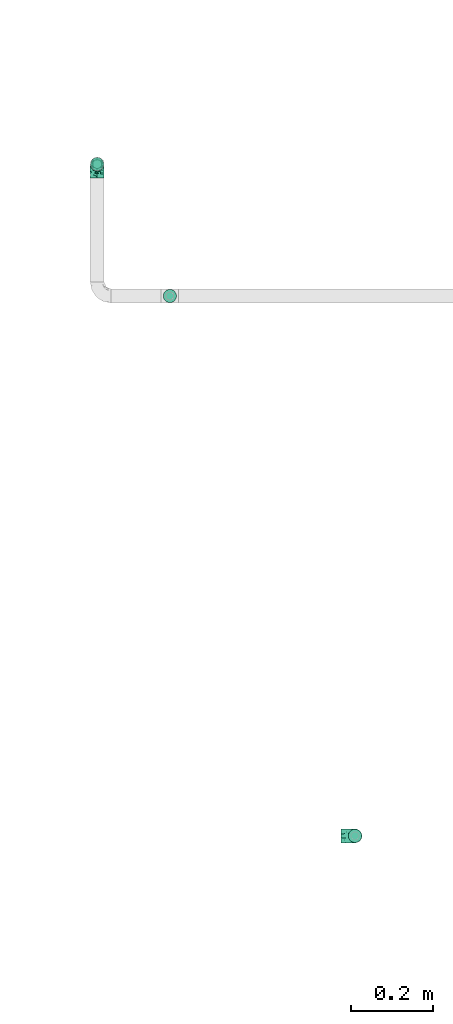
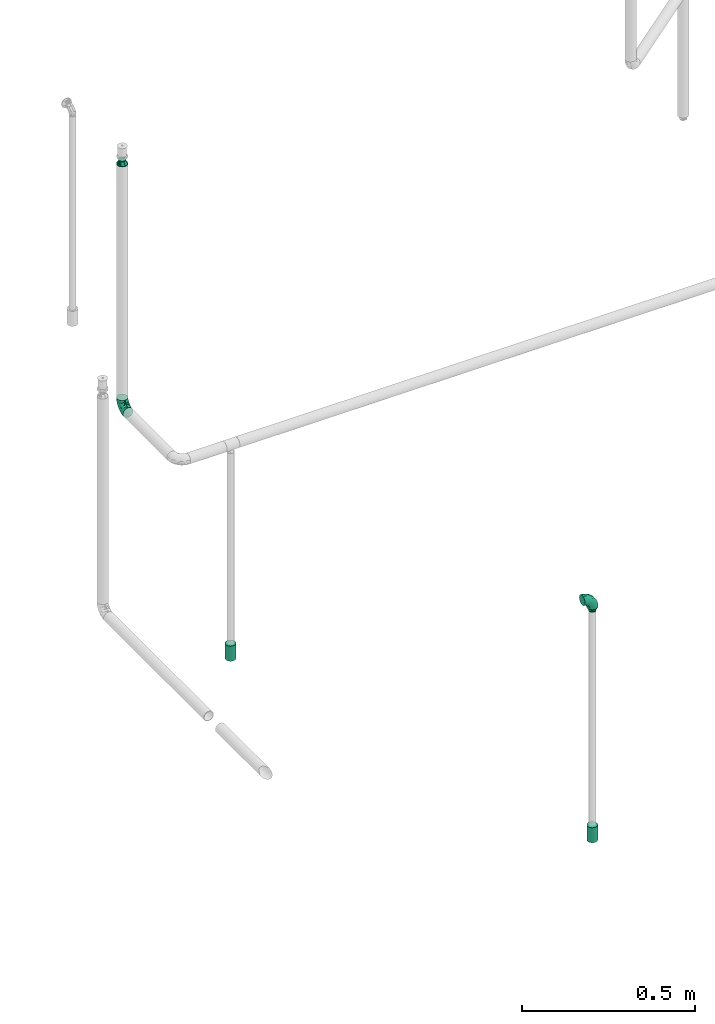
# One storey, part 63 of 94: 4 flow fittings, 2 flow terminals.
"""IFC2X3 building model written with IfcOpenShell, lengths in millimetres."""

import ifcopenshell
import ifcopenshell.guid

model = None  # the IFC model being written
_history = None  # IfcOwnerHistory: only IFC2X3 demands one
_inside = {}  # id of a spatial element -> (the spatial element, [elements in it])
_under = {}  # id of a project, library or spatial element -> (it, [spatial elements below it])
_declared = {}  # id of a project -> (the project, [libraries it declares])
_typed = {}  # id of a type object -> (the type object, [elements of that type])
_made_of = {}  # id of a material, layer set ... -> (it, [elements and type objects made of it])


def new_model(schema):
    """Start an empty IFC model of exactly this schema.

    Asked for "IFC4X3", IfcOpenShell would pick the latest addendum, in which some entities
    have other attributes; the version numbers below select the first issue.
    IFC2X3 requires an IfcOwnerHistory on every rooted entity: one is made here for all.
    """
    global model, _history
    if schema == "IFC4X3":
        model = ifcopenshell.file(schema_version=(4, 3, 0, 0))
    else:
        model = ifcopenshell.file(schema=schema)
    _inside.clear()
    _under.clear()
    _declared.clear()
    _typed.clear()
    _made_of.clear()
    _history = None
    if model.schema == "IFC2X3":
        org = make("IfcOrganization", Name="unknown")
        user = make(
            "IfcPersonAndOrganization",
            ThePerson=make("IfcPerson", FamilyName="unknown"),
            TheOrganization=org,
        )
        app = make(
            "IfcApplication",
            ApplicationDeveloper=org,
            Version="unknown",
            ApplicationFullName="unknown",
            ApplicationIdentifier="unknown",
        )
        _history = make(
            "IfcOwnerHistory",
            OwningUser=user,
            OwningApplication=app,
            ChangeAction="ADDED",
            CreationDate=0,
        )
    return model


def make(cls, **values):
    """One entity of the class cls with the attributes given. An attribute that is None is left unset."""
    return model.create_entity(
        cls, **{name: value for name, value in values.items() if value is not None}
    )


def entity(cls, *values):
    """Any entity or typed value of the class cls, its attributes in the order of the schema. None: left unset."""
    e = model.create_entity(cls)
    for i, value in enumerate(values):
        if value is not None:
            e[i] = value
    return e


def rooted(cls, **values):
    """An entity with a GlobalId (a new one), such as an element, a storey or a relation."""
    return make(cls, GlobalId=ifcopenshell.guid.new(), OwnerHistory=_history, **values)


def si_unit(unit_type, name, prefix=None):
    """IfcSIUnit, for example si_unit("LENGTHUNIT", "METRE", prefix="MILLI")."""
    return make("IfcSIUnit", UnitType=unit_type, Prefix=prefix, Name=name)


def converted_unit(unit_type, name, factor, base, dimensions=None, offset=None):
    """IfcConversionBasedUnit, such as the inch: factor (a typed value) times the base unit."""
    return make(
        "IfcConversionBasedUnit"
        if offset is None
        else "IfcConversionBasedUnitWithOffset",
        ConversionOffset=offset,
        Dimensions=None
        if dimensions is None
        else entity("IfcDimensionalExponents", *dimensions),
        UnitType=unit_type,
        Name=name,
        ConversionFactor=make(
            "IfcMeasureWithUnit", ValueComponent=factor, UnitComponent=base
        ),
    )


def derived_unit(unit_type, elements):
    """IfcDerivedUnit: a product of units, each with its exponent."""
    return make(
        "IfcDerivedUnit",
        Elements=[
            make("IfcDerivedUnitElement", Unit=unit, Exponent=power)
            for unit, power in elements
        ],
        UnitType=unit_type,
    )


def assignment(units):
    """IfcUnitAssignment: the units of a project."""
    return None if units is None else make("IfcUnitAssignment", Units=units)


def point(xyz):
    """IfcCartesianPoint."""
    return None if xyz is None else make("IfcCartesianPoint", Coordinates=xyz)


def direction(xyz):
    """IfcDirection."""
    return None if xyz is None else make("IfcDirection", DirectionRatios=xyz)


def frame(location, z_axis=None, x_axis=None):
    """IfcAxis2Placement3D, a coordinate frame: its origin and axes. An axis left out is left unset."""
    return make(
        "IfcAxis2Placement3D",
        Location=point(location),
        Axis=direction(z_axis),
        RefDirection=direction(x_axis),
    )


def origin_with_axes():
    """The frame at (0, 0, 0) with the z axis (0, 0, 1) and the x axis (1, 0, 0) written out."""
    return frame((0.0, 0.0, 0.0), z_axis=(0.0, 0.0, 1.0), x_axis=(1.0, 0.0, 0.0))


def place(relative_to, where):
    """IfcLocalPlacement: puts the frame where relative to a parent placement (None: the world)."""
    return make(
        "IfcLocalPlacement", PlacementRelTo=relative_to, RelativePlacement=where
    )


def context(
    kind, dimensions, precision=None, world=None, true_north=None, identifier=None
):
    """IfcGeometricRepresentationContext, for example the 3D "Model" context."""
    return make(
        "IfcGeometricRepresentationContext",
        ContextIdentifier=identifier,
        ContextType=kind,
        CoordinateSpaceDimension=dimensions,
        Precision=precision,
        WorldCoordinateSystem=world,
        TrueNorth=true_north,
    )


def subcontext(parent, identifier, kind, view, scale=None):
    """IfcGeometricRepresentationSubContext, for example "Body" below "Model"."""
    return make(
        "IfcGeometricRepresentationSubContext",
        ContextIdentifier=identifier,
        ContextType=kind,
        ParentContext=parent,
        TargetScale=scale,
        TargetView=view,
    )


def project(units=None, contexts=None):
    """IfcProject with its units and contexts."""
    return rooted(
        "IfcProject",
        Name="project",
        RepresentationContexts=contexts,
        UnitsInContext=assignment(units),
    )


def spatial(cls, under=None, at=None, **own):
    """A site, building, storey or space (cls), placed at a placement, below another one or the project."""
    s = rooted(cls, ObjectPlacement=at, **own)
    if under is not None:
        _under.setdefault(under.id(), (under, []))[1].append(s)
    return s


def faces_of(points, faces, orient=None, outer=None):
    """IfcFace entities. A face is a list of loops; a loop is a list of indices into points, from 0.

    orient and outer hold one flag for each loop. By default every Orientation is true, the
    first loop of a face is its IfcFaceOuterBound and the others are IfcFaceBound.
    """
    made = []
    for i, loops in enumerate(faces):
        bounds = []
        for j, loop in enumerate(loops):
            is_outer = j == 0 if outer is None else outer[i][j]
            bounds.append(
                make(
                    "IfcFaceOuterBound" if is_outer else "IfcFaceBound",
                    Bound=make("IfcPolyLoop", Polygon=[points[k] for k in loop]),
                    Orientation=True if orient is None else orient[i][j],
                )
            )
        made.append(make("IfcFace", Bounds=bounds))
    return made


def open_shell(faces, orient=None, outer=None):
    """The faces of one IfcOpenShell. surface_model builds it on its shared points."""
    return ("IfcOpenShell", faces, orient, outer)


def surface_model(cls, points, shells):
    """IfcFaceBasedSurfaceModel or IfcShellBasedSurfaceModel (cls): surfaces that need not close."""
    shared = [point(p) for p in points]
    made = [make(c, CfsFaces=faces_of(shared, fs, o, b)) for c, fs, o, b in shells]
    if cls == "IfcFaceBasedSurfaceModel":
        return make(cls, FbsmFaces=made)
    return make(cls, SbsmBoundary=made)


def shape(context_of_items, identifier, shape_type, items):
    """IfcShapeRepresentation: the items that make up one representation, for example the "Body"."""
    return make(
        "IfcShapeRepresentation",
        ContextOfItems=context_of_items,
        RepresentationIdentifier=identifier,
        RepresentationType=shape_type,
        Items=items,
    )


def source(mapping_origin, context_of_items, identifier, shape_type, items):
    """IfcRepresentationMap: a shape defined once, which mapped items show again and again."""
    return make(
        "IfcRepresentationMap",
        MappingOrigin=mapping_origin,
        MappedRepresentation=shape(context_of_items, identifier, shape_type, items),
    )


def transform(
    local_origin,
    x_axis=None,
    y_axis=None,
    z_axis=None,
    scale=None,
    scale2=None,
    scale3=None,
    uniform=True,
):
    """IfcCartesianTransformationOperator3D, or its non-uniform kind. x_axis, y_axis, z_axis: its Axis1, 2, 3."""
    if uniform:
        return make(
            "IfcCartesianTransformationOperator3D",
            Axis1=direction(x_axis),
            Axis2=direction(y_axis),
            LocalOrigin=point(local_origin),
            Scale=scale,
            Axis3=direction(z_axis),
        )
    return make(
        "IfcCartesianTransformationOperator3DnonUniform",
        Axis1=direction(x_axis),
        Axis2=direction(y_axis),
        LocalOrigin=point(local_origin),
        Scale=scale,
        Axis3=direction(z_axis),
        Scale2=scale2,
        Scale3=scale3,
    )


def mapped(mapping_source, mapping_target):
    """IfcMappedItem: shows the shape of a source again, moved by a transform."""
    return make(
        "IfcMappedItem", MappingSource=mapping_source, MappingTarget=mapping_target
    )


def made_of(thing, what):
    """Note that an element or type object is made of a material, layer set ...; save() writes the relation."""
    if what is not None:
        _made_of.setdefault(what.id(), (what, []))[1].append(thing)
    return thing


def type_object(cls, material=None, **own):
    """A type object (cls), such as IfcWallType, which elements share."""
    return made_of(rooted(cls, **own), material)


def element(
    cls,
    number,
    at=None,
    inside=None,
    cuts=None,
    type_object=None,
    material=None,
    context=None,
    identifier="Body",
    shape_type=None,
    held_by="IfcProductDefinitionShape",
    body=None,
    shapes=None,
    **own,
):
    """One element of the class cls, such as IfcWall. Its Tag is "e" and its number.

    at: its placement. inside: the storey or other place that contains it. cuts: it is an
    opening in that element (IfcRelVoidsElement). A single representation is given by context,
    identifier, shape_type and body (its items); several are given by shapes. held_by: the class
    of the entity that holds the representations. save() writes the other relations.
    """
    e = rooted(cls, Tag="e%d" % number, ObjectPlacement=at, **own)
    if body is not None:
        shapes = [shape(context, identifier, shape_type, body)]
    if shapes is not None:
        e.Representation = make(held_by, Representations=shapes)
    if inside is not None:
        _inside.setdefault(inside.id(), (inside, []))[1].append(e)
    if cuts is not None:
        rooted(
            "IfcRelVoidsElement", RelatingBuildingElement=cuts, RelatedOpeningElement=e
        )
    if type_object is not None:
        _typed.setdefault(type_object.id(), (type_object, []))[1].append(e)
    return made_of(e, material)


def aggregate(whole, parts):
    """IfcRelAggregates: a whole, such as a stair, and the parts it consists of."""
    return rooted("IfcRelAggregates", RelatingObject=whole, RelatedObjects=parts)


def save(model, path):
    """Write the relations noted so far, then the file.

    IfcRelAggregates (storeys below a building ...), IfcRelContainedInSpatialStructure (elements
    in a storey), IfcRelDefinesByType, IfcRelAssociatesMaterial and IfcRelDeclares: one each for
    every whole, place, type object, material and project.
    """
    for whole, parts in _under.values():
        aggregate(whole, parts)
    for where, things in _inside.values():
        rooted(
            "IfcRelContainedInSpatialStructure",
            RelatedElements=things,
            RelatingStructure=where,
        )
    for kind, things in _typed.values():
        rooted("IfcRelDefinesByType", RelatedObjects=things, RelatingType=kind)
    for what, things in _made_of.values():
        rooted("IfcRelAssociatesMaterial", RelatedObjects=things, RelatingMaterial=what)
    for by, libraries in _declared.values():
        rooted("IfcRelDeclares", RelatingContext=by, RelatedDefinitions=libraries)
    model.write(path)


model = new_model("IFC2X3")

# Units and contexts
model_context = context("Model", 3, precision=0.01, world=frame((0.0, 4.29681676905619e-09, 0.0)), true_north=direction((4.01073788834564e-13, 1.0)))
plan_context = context("Plan", 3, precision=0.01, world=frame((0.0, 4.29681676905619e-09, 0.0)), true_north=direction((4.01073788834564e-13, 1.0)))
body_context = subcontext(model_context, "Body", "Model", "MODEL_VIEW")
ifc_project = project(units=[converted_unit("PLANEANGLEUNIT", "DEGREE", entity("IfcPositiveLengthMeasure", 0.0174532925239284), si_unit("PLANEANGLEUNIT", "RADIAN"), dimensions=[0, 0, 0, 0, 0, 0, 0]), si_unit("AREAUNIT", "SQUARE_METRE"), si_unit("LENGTHUNIT", "METRE", prefix="MILLI"), si_unit("MASSUNIT", "GRAM", prefix="KILO"), si_unit("POWERUNIT", "WATT"), si_unit("PRESSUREUNIT", "PASCAL", prefix="KILO"), si_unit("FORCEUNIT", "NEWTON", prefix="KILO"), si_unit("ELECTRICVOLTAGEUNIT", "VOLT"), si_unit("ELECTRICCURRENTUNIT", "AMPERE"), si_unit("THERMODYNAMICTEMPERATUREUNIT", "DEGREE_CELSIUS"), si_unit("TIMEUNIT", "SECOND"), si_unit("VOLUMEUNIT", "CUBIC_METRE"), derived_unit("LINEARVELOCITYUNIT", [(si_unit("LENGTHUNIT", "METRE"), 1), (si_unit("TIMEUNIT", "SECOND"), -1)]), derived_unit("VOLUMETRICFLOWRATEUNIT", [(si_unit("VOLUMEUNIT", "CUBIC_METRE"), 1), (si_unit("TIMEUNIT", "SECOND"), -1)]), derived_unit("THERMALTRANSMITTANCEUNIT", [(si_unit("POWERUNIT", "WATT"), 1), (si_unit("THERMODYNAMICTEMPERATUREUNIT", "KELVIN"), -1), (si_unit("AREAUNIT", "SQUARE_METRE"), -1)]), derived_unit("SOUNDPRESSUREUNIT", [(si_unit("PRESSUREUNIT", "PASCAL"), 1)])], contexts=[model_context, plan_context])

# Site, building, storey
site_placement = place(None, frame((0.0, -4.29681676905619e-09, 0.0), z_axis=(0.0, 0.0, 1.0), x_axis=(1.0, 0.0, 0.0)))
site = spatial("IfcSite", under=ifc_project, at=site_placement, CompositionType="ELEMENT")
building_placement = place(site_placement, frame((0.0, 4.29681676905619e-09, 0.0), z_axis=(0.0, 0.0, 1.0), x_axis=(1.0, 0.0, 0.0)))
building = spatial("IfcBuilding", under=site, at=building_placement, Name="mc-building", CompositionType="ELEMENT")
storey_placement = place(building_placement, frame((0.0, 0.0, 210900.0), z_axis=(0.0, 0.0, 1.0), x_axis=(1.0, 0.0, 0.0)))
storey = spatial("IfcBuildingStorey", under=building, at=storey_placement, Name="Nivå F", CompositionType="ELEMENT", Elevation=210900.0)

# Flow fittings
pipe_fitting_type_1 = type_object("IfcPipeFittingType", Name="magi_pipe_fe_reducer_centric_short_NOR", PredefinedType="TRANSITION")
shared_shape_1 = source(origin_with_axes(), body_context, "Body", "SurfaceModel", [
    surface_model("IfcShellBasedSurfaceModel", [(14.4, 5.35, -9.26647), (14.4, 0.0, -10.7), (14.4, 2.76936, -10.33541), (14.4, 10.33541, -2.76936), (14.4, 7.56604, -7.56604), (14.4, -10.33541, -2.76936), (14.4, 9.26647, -5.35), (14.4, 0.0, 10.7), (14.4, -5.35, -9.26647), (14.4, -2.76936, -10.33541), (14.4, -7.56604, -7.56604), (14.4, -9.26647, -5.35), (14.4, 10.7, 0.0), (14.4, 10.33541, 2.76936), (14.4, 9.26647, 5.35), (14.4, 7.56604, 7.56604), (14.4, 2.76936, 10.33541), (14.4, 5.35, 9.26647), (14.4, -10.33541, 2.76936), (14.4, -7.56604, 7.56604), (14.4, -9.26647, 5.35), (14.4, -10.7, 0.0), (14.4, -2.76936, 10.33541), (14.4, -5.35, 9.26647), (12.4, 2.76936, 10.33541), (12.4, -10.33541, -2.76936), (12.4, 0.0, 10.7), (12.4, 5.35, 9.26647), (12.4, 7.56604, 7.56604), (12.4, 9.26647, 5.35), (12.4, 10.33541, 2.76936), (12.4, -10.33541, 2.76936), (12.4, -2.76936, 10.33541), (12.4, -7.56604, 7.56604), (12.4, -5.35, 9.26647), (12.4, -9.26647, 5.35), (12.4, -10.7, 0.0), (12.4, 10.33541, -2.76936), (12.4, 5.35, -9.26647), (12.4, 9.26647, -5.35), (12.4, 7.56604, -7.56604), (12.4, 2.76936, -10.33541), (12.4, -9.26647, -5.35), (12.4, -5.35, -9.26647), (12.4, -7.56604, -7.56604), (12.4, 0.0, -10.7), (12.4, -2.76936, -10.33541), (12.4, 10.7, 0.0), (-2.0, 11.9501, 11.9501), (-2.0, 0.0, 16.9), (-2.0, 4.37404, 16.32415), (-2.0, 8.45, 14.63583), (-2.0, 14.63583, 8.45), (-2.0, 16.32415, 4.37404), (-2.0, -16.32415, 4.37404), (-2.0, -8.45, 14.63583), (-2.0, -14.63583, 8.45), (-2.0, -11.9501, 11.9501), (-2.0, -4.37404, 16.32415), (-2.0, -16.32415, -4.37404), (-2.0, -16.9, 0.0), (-2.0, -8.45, -14.63583), (-2.0, 16.32415, -4.37404), (-2.0, 11.9501, -11.9501), (-2.0, 14.63583, -8.45), (-2.0, 8.45, -14.63583), (-2.0, 4.37404, -16.32415), (-2.0, 0.0, -16.9), (-2.0, -11.9501, -11.9501), (-2.0, -14.63583, -8.45), (-2.0, -4.37404, -16.32415), (-2.0, 16.9, 0.0), (0.0, 4.37404, -16.32415), (0.0, 8.45, -14.63583), (0.0, 11.9501, -11.9501), (0.0, 0.0, -16.9), (0.0, 16.32415, -4.37404), (0.0, 16.32415, 4.37404), (0.0, 14.63583, -8.45), (0.0, -8.45, -14.63583), (0.0, -4.37404, -16.32415), (0.0, -11.9501, -11.9501), (0.0, -16.32415, -4.37404), (0.0, -14.63583, -8.45), (0.0, -16.32415, 4.37404), (0.0, 16.9, 0.0), (0.0, 14.63583, 8.45), (0.0, 11.9501, 11.9501), (0.0, 4.37404, 16.32415), (0.0, 8.45, 14.63583), (0.0, 0.0, 16.9), (0.0, -14.63583, 8.45), (0.0, -16.9, 0.0), (0.0, -8.45, 14.63583), (0.0, -11.9501, 11.9501), (0.0, -4.37404, 16.32415), (12.4, 9.3625, -2.31662), (0.0, 14.42505, -5.97505), (0.0, 15.66253, -2.98753), (12.4, -6.6875, -6.94985), (0.0, -13.18758, -8.96258), (0.0, 2.98753, -15.66253), (12.4, 0.0, -9.26647), (12.4, 6.6875, -6.94985), (0.0, 8.96258, -13.18758), (12.4, -9.3625, -2.31662), (0.0, -15.66253, -2.98753), (0.0, -14.42505, -5.97505), (0.0, 5.97505, -14.42505), (0.0, -2.98753, -15.66253), (0.0, -8.96258, -13.18758), (0.0, 13.18758, -8.96258), (12.4, 8.025, -4.63324), (12.4, -2.675, -9.26647), (12.4, 2.675, -9.26647), (0.0, -5.97505, -14.42505), (12.4, -8.025, -4.63324), (12.4, -9.3625, 2.31662), (0.0, -14.42505, 5.97505), (0.0, -15.66253, 2.98753), (12.4, 6.6875, 6.94985), (0.0, 13.18758, 8.96258), (0.0, -2.98753, 15.66253), (12.4, 0.0, 9.26647), (12.4, -6.6875, 6.94985), (0.0, -8.96258, 13.18758), (12.4, 9.3625, 2.31662), (0.0, 15.66253, 2.98753), (0.0, 14.42505, 5.97505), (0.0, -5.97505, 14.42505), (0.0, 2.98753, 15.66253), (0.0, 8.96258, 13.18758), (0.0, -13.18758, 8.96258), (12.4, -8.025, 4.63324), (12.4, 2.675, 9.26647), (12.4, -2.675, 9.26647), (0.0, 5.97505, 14.42505), (12.4, 8.025, 4.63324)], [open_shell([[[0, 1, 2]], [[3, 0, 4]], [[5, 0, 3]], [[3, 4, 6]], [[7, 5, 3]], [[1, 8, 9]], [[1, 0, 8]], [[10, 5, 11]], [[5, 10, 8]], [[0, 5, 8]], [[3, 12, 13]], [[13, 14, 15]], [[13, 15, 16]], [[7, 3, 16]], [[16, 15, 17]], [[7, 18, 5]], [[18, 19, 20]], [[21, 5, 18]], [[19, 22, 23]], [[22, 19, 18]], [[7, 22, 18]], [[13, 16, 3]], [[24, 25, 26]], [[27, 25, 24]], [[28, 29, 30]], [[28, 25, 27]], [[31, 26, 25]], [[32, 33, 34]], [[33, 32, 31]], [[33, 31, 35]], [[32, 26, 31]], [[31, 25, 36]], [[30, 37, 28]], [[25, 28, 37]], [[38, 37, 39]], [[37, 38, 25]], [[38, 39, 40]], [[41, 25, 38]], [[42, 43, 44]], [[43, 42, 25]], [[43, 45, 46]], [[43, 25, 41]], [[41, 45, 43]], [[37, 30, 47]], [[25, 5, 36]], [[42, 11, 25]], [[8, 44, 43]], [[42, 44, 10]], [[9, 43, 46]], [[25, 11, 5]], [[5, 21, 36]], [[9, 8, 43]], [[10, 44, 8]], [[10, 11, 42]], [[1, 9, 46]], [[46, 45, 1]], [[41, 2, 45]], [[38, 0, 41]], [[6, 40, 39]], [[38, 40, 4]], [[3, 39, 37]], [[38, 4, 0]], [[0, 2, 41]], [[12, 3, 37]], [[6, 39, 3]], [[6, 4, 40]], [[47, 12, 37]], [[45, 2, 1]], [[30, 13, 47]], [[29, 14, 30]], [[17, 28, 27]], [[29, 28, 15]], [[16, 27, 24]], [[30, 14, 13]], [[13, 12, 47]], [[16, 17, 27]], [[15, 28, 17]], [[15, 14, 29]], [[7, 16, 24]], [[24, 26, 7]], [[32, 22, 26]], [[34, 23, 32]], [[20, 33, 35]], [[34, 33, 19]], [[18, 35, 31]], [[34, 19, 23]], [[23, 22, 32]], [[21, 18, 31]], [[20, 35, 18]], [[20, 19, 33]], [[36, 21, 31]], [[26, 22, 7]], [[48, 49, 50]], [[48, 50, 51]], [[48, 52, 53]], [[48, 53, 49]], [[49, 53, 54]], [[55, 56, 57]], [[55, 58, 49]], [[56, 55, 49]], [[49, 54, 56]], [[54, 59, 60]], [[54, 53, 61]], [[53, 62, 63]], [[63, 62, 64]], [[63, 65, 66]], [[61, 53, 63]], [[67, 63, 66]], [[59, 68, 69]], [[68, 59, 61]], [[61, 67, 70]], [[59, 54, 61]], [[63, 67, 61]], [[53, 71, 62]], [[72, 73, 74]], [[75, 72, 74]], [[74, 76, 77]], [[76, 74, 78]], [[74, 77, 79]], [[75, 79, 80]], [[75, 74, 79]], [[81, 82, 83]], [[82, 81, 79]], [[79, 84, 82]], [[77, 76, 85]], [[77, 86, 87]], [[77, 87, 88]], [[88, 84, 79]], [[88, 87, 89]], [[84, 88, 90]], [[90, 91, 84]], [[92, 82, 84]], [[91, 93, 94]], [[91, 90, 93]], [[93, 90, 95]], [[79, 77, 88]], [[59, 82, 60]], [[69, 83, 59]], [[79, 68, 61]], [[69, 68, 81]], [[80, 61, 70]], [[59, 83, 82]], [[82, 92, 60]], [[80, 79, 61]], [[81, 68, 79]], [[81, 83, 69]], [[75, 80, 70]], [[70, 67, 75]], [[66, 72, 67]], [[65, 73, 66]], [[78, 63, 64]], [[65, 63, 74]], [[76, 64, 62]], [[65, 74, 73]], [[73, 72, 66]], [[85, 76, 62]], [[78, 64, 76]], [[78, 74, 63]], [[71, 85, 62]], [[67, 72, 75]], [[53, 77, 71]], [[52, 86, 53]], [[89, 48, 51]], [[52, 48, 87]], [[88, 51, 50]], [[53, 86, 77]], [[77, 85, 71]], [[88, 89, 51]], [[87, 48, 89]], [[87, 86, 52]], [[90, 88, 50]], [[50, 49, 90]], [[58, 95, 49]], [[55, 93, 58]], [[91, 57, 56]], [[55, 57, 94]], [[84, 56, 54]], [[55, 94, 93]], [[93, 95, 58]], [[92, 84, 54]], [[91, 56, 84]], [[91, 94, 57]], [[60, 92, 54]], [[49, 95, 90]], [[27, 34, 47]], [[47, 34, 43]], [[43, 38, 47]], [[43, 34, 36]], [[90, 87, 94]], [[92, 94, 87]], [[87, 74, 92]], [[75, 92, 74]], [[81, 92, 75]], [[74, 87, 85]], [[96, 97, 98]], [[81, 99, 100]], [[101, 102, 75]], [[98, 85, 47]], [[74, 103, 104]], [[104, 103, 38]], [[105, 106, 107]], [[38, 108, 104]], [[102, 109, 75]], [[110, 99, 81]], [[47, 96, 98]], [[103, 111, 112]], [[109, 102, 113]], [[36, 92, 106]], [[102, 101, 114]], [[110, 115, 43]], [[96, 112, 97]], [[107, 116, 105]], [[36, 106, 105]], [[113, 115, 109]], [[43, 115, 113]], [[116, 107, 100]], [[108, 38, 114]], [[111, 103, 74]], [[111, 97, 112]], [[99, 110, 43]], [[116, 100, 99]], [[101, 108, 114]], [[117, 118, 119]], [[87, 120, 121]], [[122, 123, 90]], [[119, 92, 36]], [[94, 124, 125]], [[125, 124, 34]], [[126, 127, 128]], [[34, 129, 125]], [[123, 130, 90]], [[131, 120, 87]], [[36, 117, 119]], [[124, 132, 133]], [[130, 123, 134]], [[47, 85, 127]], [[123, 122, 135]], [[131, 136, 27]], [[117, 133, 118]], [[128, 137, 126]], [[47, 127, 126]], [[134, 136, 130]], [[27, 136, 134]], [[137, 128, 121]], [[129, 34, 135]], [[132, 124, 94]], [[132, 118, 133]], [[120, 131, 27]], [[137, 121, 120]], [[122, 129, 135]]])]),
])
for number, where, z_axis, x_axis, name in (
    (1, (724374.5926, 440830.4939, 4357.64799999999), (-1.0, 0.0, 0.0), (0.0, 0.0, 1.0), "magi_pipe_fe_reducer_centric_short_NOR"),
    (2, (725000.0, 439200.7, 3566.20000000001), (0.0, 1.0, 0.0), (0.0, 0.0, -1.0), "magi_pipe_fe_reducer_centric_short_NOR"),
):
    element("IfcFlowFitting", number, at=place(storey_placement, frame(where, z_axis=z_axis, x_axis=x_axis)), inside=storey, type_object=pipe_fitting_type_1, Name=name, context=body_context, shape_type="MappedRepresentation", body=[
        mapped(shared_shape_1, transform((0.0, 0.0, 0.0), scale=1.0)),
    ])
pipe_fitting_type_2 = type_object("IfcPipeFittingType", Name="magi_pipe_fe_elbow_short_001", PredefinedType="BEND")
shared_shape_2 = source(origin_with_axes(), body_context, "Body", "SurfaceModel", [
    surface_model("IfcShellBasedSurfaceModel", [(-33.8, 8.45, -14.63583), (-33.8, 4.37404, -16.32415), (-33.8, 11.9501, -11.9501), (-33.8, -11.9501, -11.9501), (-33.8, -14.63583, -8.45), (-33.8, -8.45, -14.63583), (-33.8, 0.0, -16.9), (-33.8, -4.37404, -16.32415), (-33.8, -4.37404, 16.32415), (-33.8, 0.0, 16.9), (-33.8, -8.45, 14.63583), (-33.8, 16.32415, -4.37404), (-33.8, 14.63583, -8.45), (-33.8, -16.32415, -4.37404), (-33.8, -16.9, 0.0), (-33.8, -16.32415, 4.37404), (-33.8, 11.9501, 11.9501), (-33.8, 14.63583, 8.45), (-33.8, 16.32415, 4.37404), (-33.8, 4.37404, 16.32415), (-33.8, 8.45, 14.63583), (-33.8, -14.63583, 8.45), (-33.8, -11.9501, 11.9501), (-33.8, 16.9, 0.0), (-11.9501, 33.8, -11.9501), (0.0, 33.8, -16.9), (-4.37404, 33.8, -16.32415), (-8.45, 33.8, -14.63583), (-14.63583, 33.8, -8.45), (-16.32415, 33.8, -4.37404), (14.63583, 33.8, -8.45), (8.45, 33.8, 14.63583), (16.32415, 33.8, -4.37404), (8.45, 33.8, -14.63583), (11.9501, 33.8, -11.9501), (4.37404, 33.8, -16.32415), (16.32415, 33.8, 4.37404), (16.9, 33.8, 0.0), (-11.9501, 33.8, 11.9501), (-16.32415, 33.8, 4.37404), (-14.63583, 33.8, 8.45), (-8.45, 33.8, 14.63583), (-4.37404, 33.8, 16.32415), (11.9501, 33.8, 11.9501), (14.63583, 33.8, 8.45), (0.0, 33.8, 16.9), (4.37404, 33.8, 16.32415), (-16.9, 33.8, 0.0), (-24.79389, -13.12945, 9.48721), (-22.19287, -9.75018, 12.59315), (-24.09897, -14.97035, 0.0), (-14.93934, -10.76256, 8.5297), (-22.46095, -14.75051, 5.27077), (14.75051, 22.46094, 5.27077), (11.9251, 13.23888, 4.33236), (13.04069, 14.39795, 0.0), (7.71387, 13.68847, 11.55891), (9.75018, 22.19287, 12.59315), (4.10169, 13.0571, 14.04018), (-24.84007, -6.39063, 15.2048), (-25.81779, -2.23879, 16.61097), (-23.66549, 2.59054, 16.87119), (-26.50418, 14.06512, 11.08152), (-24.21253, 17.66365, 7.72657), (-29.58514, 15.86957, 7.00283), (-6.17382, -7.5455, 0.0), (-13.23888, -11.9251, 4.33236), (-14.39795, -13.04069, 0.0), (-17.81434, 18.87373, 11.97104), (-6.30846, 29.15138, 15.82987), (-2.31622, 25.28002, 16.85849), (-29.23923, 10.23435, 13.77053), (-1.45439, -2.85688, 7.61475), (-0.28326, 0.34872, 10.09509), (-5.74484, -4.04709, 10.4122), (-4.41137, 11.31918, 16.59407), (-8.39727, 3.10034, 15.7812), (-1.72649, 9.1306, 15.53089), (-17.39909, 24.75344, 7.64977), (-26.19233, 20.0512, 0.0), (-28.14518, 17.29657, 4.25857), (-26.05147, 6.6281, 15.96447), (-5.87354, 16.61944, 16.86968), (-12.51807, 12.51807, 16.48937), (-10.06312, 7.38516, 16.81295), (-3.01882, 3.01882, 13.81718), (-13.0571, -4.10169, 14.04018), (-16.82553, -0.15166, 16.38038), (10.76256, 14.93934, 8.5297), (13.12945, 24.79389, 9.48721), (6.39063, 24.84007, 15.2048), (2.23879, 25.81779, 16.61097), (-13.68847, -7.71387, 11.55891), (14.97035, 24.09897, 0.0), (-7.30894, 22.89991, 16.09489), (-10.67958, 26.17414, 14.008), (-12.78295, 18.26924, 15.06066), (-13.88562, 22.45231, 12.93244), (-18.04944, 15.16501, 14.04434), (-23.11658, 20.08178, 4.02986), (-21.84989, 21.84989, 0.0), (-18.55817, 25.48277, 3.93065), (-13.95142, 26.94732, 11.03289), (-18.57098, 7.23906, 16.59756), (-16.58335, 4.14122, 16.89279), (-17.96666, 11.46709, 15.63151), (-9.84453, 17.54304, 16.18938), (0.15166, 16.82553, 16.38038), (-23.27207, 11.47201, 14.23154), (3.84842, 5.86994, 10.70473), (-8.0212, -7.54413, 7.93275), (1.00345, -2.19508, 4.57414), (5.13203, 3.01004, 5.90201), (5.24161, 1.7543, 2.53265), (8.70457, 7.04947, 3.99182), (-20.0512, 26.19233, 0.0), (8.4852, 8.76699, 7.09296), (-4.55488, -6.72064, 4.90681), (2.05031, -2.05031, 0.0), (7.5455, 6.17382, 0.0), (-26.75399, 2.1369, -16.845), (-14.61995, 24.73803, -11.27736), (-28.45274, -13.45335, -9.81895), (-26.00469, 6.63555, -15.96645), (-23.06726, 20.04573, -4.26202), (-13.80647, -4.26506, -14.17873), (-14.67501, -0.21081, -16.07388), (-6.7902, -0.2828, -13.8478), (-24.53586, 11.08096, -14.13417), (-26.72048, 14.00837, -11.05776), (10.0967, 24.44989, -12.75976), (5.83237, 21.40218, -15.03047), (6.66249, 28.54238, -15.38093), (-20.38182, 15.48705, -12.74596), (12.53268, 21.23441, -9.15363), (12.54494, 15.67504, -5.54878), (9.7522, 12.89279, -8.66343), (-15.65186, 19.64213, -13.01327), (-12.03528, 20.66498, -14.67665), (-15.61907, 15.61906, -14.83879), (-25.56551, -15.26206, 0.0), (-24.65452, -15.12934, -5.50955), (13.45335, 28.45274, -9.81895), (15.12934, 24.65452, -5.50955), (-7.35442, -8.31014, -5.65563), (-15.67504, -12.54494, -5.54878), (-24.44989, -10.0967, -12.75976), (0.16522, 0.41303, -9.71728), (-5.70658, -5.33066, -8.89288), (-5.13869, -2.37198, -11.53565), (-21.23441, -12.53268, -9.15363), (0.71146, 7.93863, -14.09382), (0.21081, 14.67501, -16.07388), (3.49291, 14.42772, -14.76381), (-24.89911, -2.13088, -16.591), (-28.54238, -6.66249, -15.38093), (-18.44386, -7.71663, -13.26957), (2.13088, 24.89911, -16.591), (-28.64342, 17.44413, -2.89318), (1.70017, -1.28722, -5.09504), (-16.57067, 26.81947, -7.36596), (-17.69055, 27.4263, -3.76405), (-12.89279, -9.7522, -8.66343), (-5.96611, 5.96611, -15.95814), (-20.53709, 20.09345, -8.28985), (-2.1369, 26.75399, -16.845), (-6.89872, 24.58781, -16.02578), (-10.60739, 26.53157, -13.98044), (-21.40218, -5.83237, -15.03047), (2.93192, 5.89627, -11.55917), (6.89393, 12.61842, -11.82233), (5.58056, 5.95325, -8.79455), (-3.99512, 18.61798, -16.89635), (8.31014, 7.35442, -5.65563), (-9.1383, 9.86148, -16.89041), (-9.99983, 16.02119, -16.39699), (-16.68576, 9.78031, -16.34199), (-27.01915, 16.61158, -7.12979), (15.26206, 25.56551, 0.0), (-18.61798, 3.99512, -16.89635), (-19.37495, 27.82495, 0.0), (-12.61842, -6.89393, -11.82233), (-18.84705, 19.14018, -10.96545)], [open_shell([[[0, 1, 2]], [[3, 4, 5]], [[6, 7, 5]], [[8, 9, 10]], [[1, 6, 2]], [[11, 12, 2]], [[4, 2, 6]], [[2, 13, 10]], [[5, 4, 6]], [[2, 4, 13]], [[14, 15, 13]], [[11, 2, 16]], [[11, 17, 18]], [[11, 16, 17]], [[19, 20, 16]], [[16, 2, 10]], [[19, 16, 10]], [[21, 22, 15]], [[22, 13, 15]], [[22, 10, 13]], [[10, 9, 19]], [[11, 18, 23]], [[24, 25, 26]], [[24, 26, 27]], [[24, 28, 29]], [[25, 24, 30]], [[31, 32, 24]], [[33, 30, 34]], [[33, 35, 25]], [[25, 30, 33]], [[32, 30, 24]], [[32, 36, 37]], [[38, 24, 29]], [[39, 40, 29]], [[40, 38, 29]], [[38, 41, 42]], [[38, 31, 24]], [[31, 38, 42]], [[36, 43, 44]], [[36, 32, 43]], [[31, 45, 46]], [[32, 31, 43]], [[42, 45, 31]], [[39, 29, 47]], [[22, 48, 49]], [[15, 14, 50]], [[51, 48, 52]], [[53, 54, 55]], [[48, 22, 21]], [[15, 52, 21]], [[56, 57, 58]], [[49, 10, 22]], [[49, 59, 10]], [[9, 60, 61]], [[62, 63, 64]], [[65, 66, 67]], [[57, 43, 31]], [[62, 68, 63]], [[42, 69, 70]], [[20, 71, 16]], [[8, 60, 9]], [[72, 73, 74]], [[75, 76, 77]], [[16, 62, 17]], [[40, 39, 78]], [[79, 23, 80]], [[64, 18, 17]], [[9, 61, 19]], [[19, 81, 20]], [[82, 83, 84]], [[74, 85, 86]], [[59, 86, 87]], [[88, 89, 57]], [[90, 31, 46]], [[44, 53, 36]], [[46, 45, 91]], [[54, 53, 88]], [[44, 89, 53]], [[92, 86, 49]], [[89, 44, 43]], [[10, 59, 8]], [[53, 55, 93]], [[93, 36, 53]], [[66, 52, 67]], [[94, 82, 70]], [[95, 96, 94]], [[97, 98, 96]], [[79, 99, 100]], [[41, 38, 95]], [[101, 100, 99]], [[68, 78, 63]], [[42, 41, 69]], [[23, 18, 80]], [[95, 94, 69]], [[78, 101, 99]], [[38, 102, 95]], [[70, 45, 42]], [[97, 95, 102]], [[15, 50, 52]], [[90, 57, 31]], [[57, 90, 58]], [[81, 19, 61]], [[103, 104, 84]], [[105, 81, 103]], [[38, 40, 102]], [[106, 96, 83]], [[94, 106, 82]], [[91, 70, 107]], [[71, 62, 16]], [[62, 108, 98]], [[86, 59, 49]], [[67, 52, 50]], [[60, 59, 87]], [[92, 49, 51]], [[86, 85, 76]], [[91, 90, 46]], [[37, 36, 93]], [[107, 77, 58]], [[107, 58, 90]], [[58, 85, 109]], [[110, 74, 92]], [[72, 74, 110]], [[66, 51, 52]], [[72, 111, 112]], [[113, 114, 112]], [[56, 88, 57]], [[52, 48, 21]], [[49, 48, 51]], [[57, 89, 43]], [[53, 89, 88]], [[103, 81, 61]], [[71, 81, 108]], [[18, 64, 80]], [[63, 78, 99]], [[47, 115, 101]], [[101, 115, 100]], [[40, 78, 102]], [[68, 102, 78]], [[97, 96, 95]], [[105, 98, 108]], [[103, 84, 83]], [[107, 70, 82]], [[76, 84, 87]], [[82, 84, 75]], [[70, 91, 45]], [[90, 91, 107]], [[59, 60, 8]], [[61, 60, 87]], [[73, 85, 74]], [[109, 112, 116]], [[103, 61, 104]], [[105, 103, 83]], [[96, 105, 83]], [[81, 105, 108]], [[96, 98, 105]], [[62, 98, 68]], [[61, 87, 104]], [[87, 84, 104]], [[86, 76, 87]], [[77, 76, 85]], [[58, 77, 85]], [[75, 77, 107]], [[82, 75, 107]], [[76, 75, 84]], [[81, 71, 20]], [[62, 71, 108]], [[95, 69, 41]], [[70, 69, 94]], [[62, 64, 17]], [[80, 63, 99]], [[63, 80, 64]], [[80, 99, 79]], [[66, 65, 117]], [[110, 66, 117]], [[112, 114, 116]], [[118, 117, 65]], [[110, 92, 51]], [[112, 111, 113]], [[119, 55, 54]], [[74, 86, 92]], [[58, 109, 56]], [[116, 56, 109]], [[66, 110, 51]], [[72, 110, 117]], [[111, 72, 117]], [[73, 112, 109]], [[117, 118, 111]], [[113, 111, 118]], [[118, 119, 113]], [[114, 119, 54]], [[119, 114, 113]], [[116, 54, 88]], [[54, 116, 114]], [[116, 88, 56]], [[112, 73, 72]], [[85, 73, 109]], [[78, 39, 101]], [[47, 101, 39]], [[102, 68, 97]], [[97, 68, 98]], [[82, 106, 83]], [[94, 96, 106]], [[1, 120, 6]], [[28, 24, 121]], [[3, 122, 4]], [[0, 123, 1]], [[100, 124, 79]], [[125, 126, 127]], [[128, 2, 129]], [[130, 131, 132]], [[128, 129, 133]], [[134, 135, 136]], [[137, 138, 139]], [[128, 0, 2]], [[67, 140, 141]], [[134, 142, 143]], [[141, 13, 4]], [[144, 65, 145]], [[146, 3, 5]], [[147, 148, 149]], [[145, 141, 150]], [[151, 152, 153]], [[154, 7, 6]], [[5, 155, 146]], [[150, 146, 156]], [[155, 5, 7]], [[143, 135, 134]], [[35, 157, 25]], [[23, 79, 158]], [[148, 159, 144]], [[160, 161, 29]], [[145, 162, 144]], [[163, 152, 151]], [[29, 28, 160]], [[121, 164, 160]], [[33, 34, 130]], [[25, 165, 26]], [[26, 165, 166]], [[142, 34, 30]], [[24, 27, 167]], [[124, 161, 164]], [[157, 35, 132]], [[155, 154, 168]], [[123, 0, 128]], [[169, 170, 171]], [[172, 157, 152]], [[26, 166, 27]], [[132, 35, 33]], [[142, 130, 34]], [[168, 154, 126]], [[136, 135, 173]], [[133, 137, 139]], [[2, 12, 129]], [[170, 131, 130]], [[30, 32, 143]], [[172, 174, 175]], [[176, 123, 128]], [[158, 177, 11]], [[135, 55, 119]], [[167, 27, 166]], [[175, 166, 172]], [[137, 167, 138]], [[122, 141, 4]], [[140, 14, 13]], [[32, 37, 178]], [[170, 130, 134]], [[152, 157, 131]], [[165, 157, 172]], [[153, 170, 151]], [[152, 163, 174]], [[168, 125, 156]], [[122, 146, 150]], [[120, 154, 6]], [[179, 174, 126]], [[179, 126, 154]], [[126, 163, 127]], [[162, 145, 150]], [[140, 13, 141]], [[32, 178, 143]], [[55, 143, 178]], [[177, 129, 12]], [[128, 133, 139]], [[176, 128, 139]], [[120, 123, 179]], [[121, 160, 28]], [[161, 100, 180]], [[166, 175, 138]], [[121, 24, 167]], [[161, 47, 29]], [[79, 124, 158]], [[124, 164, 177]], [[161, 124, 100]], [[136, 171, 170]], [[127, 163, 151]], [[147, 171, 159]], [[148, 144, 162]], [[127, 151, 169]], [[127, 181, 125]], [[129, 177, 164]], [[12, 11, 177]], [[159, 65, 144]], [[67, 141, 145]], [[143, 55, 135]], [[135, 119, 173]], [[123, 120, 1]], [[154, 120, 179]], [[157, 165, 25]], [[166, 165, 172]], [[172, 152, 174]], [[176, 139, 175]], [[126, 174, 163]], [[176, 174, 179]], [[174, 176, 175]], [[123, 176, 179]], [[150, 181, 162]], [[127, 149, 181]], [[181, 148, 162]], [[159, 148, 147]], [[171, 136, 173]], [[170, 134, 136]], [[159, 171, 173]], [[171, 147, 169]], [[169, 147, 149]], [[151, 170, 169]], [[164, 182, 129]], [[182, 121, 137]], [[181, 149, 148]], [[169, 149, 127]], [[182, 137, 133]], [[167, 137, 121]], [[166, 138, 167]], [[175, 139, 138]], [[129, 182, 133]], [[121, 182, 164]], [[161, 160, 164]], [[47, 161, 180]], [[177, 158, 124]], [[23, 158, 11]], [[130, 132, 33]], [[157, 132, 131]], [[143, 142, 30]], [[130, 142, 134]], [[154, 155, 7]], [[146, 155, 168]], [[146, 122, 3]], [[141, 122, 150]], [[152, 131, 153]], [[159, 119, 118]], [[67, 145, 65]], [[170, 153, 131]], [[119, 159, 173]], [[159, 118, 65]], [[156, 125, 181]], [[126, 125, 168]], [[150, 156, 181]], [[168, 156, 146]]])]),
])
for number, where, z_axis, x_axis, name in (
    (3, (724374.5926, 440830.4939, 3500.0), (1.0, 0.0, 0.0), (0.0, 1.0, 0.0), "magi_pipe_fe_elbow_short_001"),
    (4, (725000.0, 439200.7, 3600.0), (0.0, -1.0, 0.0), (0.0, 0.0, 1.0), "magi_pipe_fe_elbow_short_001"),
):
    element("IfcFlowFitting", number, at=place(storey_placement, frame(where, z_axis=z_axis, x_axis=x_axis)), inside=storey, type_object=pipe_fitting_type_2, Name=name, context=body_context, shape_type="MappedRepresentation", body=[
        mapped(shared_shape_2, transform((0.0, 0.0, 0.0), scale=1.0)),
    ])

# Flow terminals
fire_suppression_terminal_type = type_object("IfcFireSuppressionTerminalType", Name="SP-15-K80-68DGR-STD-HIMLING", PredefinedType="NOTDEFINED")
shared_shape_3 = source(origin_with_axes(), body_context, "Body", "SurfaceModel", [
    surface_model("IfcShellBasedSurfaceModel", [(4.1411, -15.45481, 53.0), (8.0, -13.85641, 53.0), (11.31371, -11.31371, 53.0), (-8.0, -13.85641, 53.0), (15.45481, -4.1411, 53.0), (16.0, 0.0, 53.0), (13.85641, -8.0, 53.0), (0.0, -16.0, 53.0), (-4.1411, -15.45481, 53.0), (-13.85641, -8.0, 53.0), (-11.31371, -11.31371, 53.0), (-15.45481, -4.1411, 53.0), (15.45481, 4.1411, 53.0), (13.85641, 8.0, 53.0), (11.31371, 11.31371, 53.0), (-4.1411, 15.45481, 53.0), (8.0, 13.85641, 53.0), (4.1411, 15.45481, 53.0), (0.0, 16.0, 53.0), (-13.85641, 8.0, 53.0), (-15.45481, 4.1411, 53.0), (-16.0, 0.0, 53.0), (-11.31371, 11.31371, 53.0), (-8.0, 13.85641, 53.0), (0.0, 16.0, 0.0), (4.1411, 15.45481, 0.0), (8.0, 13.85641, 0.0), (-4.1411, 15.45481, 0.0), (11.31371, 11.31371, 0.0), (13.85641, 8.0, 0.0), (15.45481, 4.1411, 0.0), (-15.45481, -4.1411, 0.0), (-11.31371, 11.31371, 0.0), (-8.0, 13.85641, 0.0), (-13.85641, 8.0, 0.0), (-15.45481, 4.1411, 0.0), (-16.0, 0.0, 0.0), (4.1411, -15.45481, 0.0), (16.0, 0.0, 0.0), (15.45481, -4.1411, 0.0), (13.85641, -8.0, 0.0), (11.31371, -11.31371, 0.0), (8.0, -13.85641, 0.0), (-8.0, -13.85641, 0.0), (-13.85641, -8.0, 0.0), (-11.31371, -11.31371, 0.0), (0.0, -16.0, 0.0), (-4.1411, -15.45481, 0.0)], [open_shell([[[0, 1, 2]], [[3, 0, 2]], [[4, 5, 2]], [[4, 2, 6]], [[3, 2, 5]], [[7, 3, 8]], [[7, 0, 3]], [[3, 9, 10]], [[9, 3, 11]], [[5, 11, 3]], [[5, 12, 11]], [[12, 13, 14]], [[15, 12, 14]], [[16, 17, 18]], [[14, 16, 15]], [[18, 15, 16]], [[11, 19, 20]], [[21, 11, 20]], [[22, 15, 23]], [[15, 22, 19]], [[19, 11, 15]], [[11, 12, 15]], [[24, 25, 26]], [[27, 24, 26]], [[28, 29, 30]], [[27, 26, 28]], [[27, 28, 31]], [[27, 32, 33]], [[32, 27, 34]], [[34, 31, 35]], [[31, 34, 27]], [[35, 31, 36]], [[28, 30, 31]], [[37, 38, 39]], [[37, 39, 40]], [[41, 42, 37]], [[41, 37, 40]], [[38, 37, 43]], [[44, 43, 45]], [[43, 44, 31]], [[43, 46, 47]], [[43, 31, 38]], [[37, 46, 43]], [[38, 31, 30]], [[11, 31, 44]], [[45, 9, 44]], [[3, 43, 47]], [[45, 43, 10]], [[8, 47, 46]], [[31, 21, 36]], [[31, 11, 21]], [[44, 9, 11]], [[45, 10, 9]], [[3, 10, 43]], [[47, 8, 3]], [[46, 7, 8]], [[0, 37, 42]], [[41, 1, 42]], [[6, 40, 39]], [[41, 40, 2]], [[4, 39, 38]], [[37, 0, 7]], [[42, 1, 0]], [[41, 2, 1]], [[40, 6, 2]], [[4, 6, 39]], [[38, 5, 4]], [[37, 7, 46]], [[12, 38, 30]], [[13, 30, 29]], [[16, 26, 25]], [[17, 25, 24]], [[30, 13, 12]], [[12, 5, 38]], [[28, 14, 13]], [[28, 26, 14]], [[14, 26, 16]], [[25, 17, 16]], [[28, 13, 29]], [[24, 18, 17]], [[15, 27, 33]], [[32, 23, 33]], [[19, 34, 35]], [[32, 34, 22]], [[20, 35, 36]], [[27, 15, 18]], [[33, 23, 15]], [[32, 22, 23]], [[34, 19, 22]], [[20, 19, 35]], [[36, 21, 20]], [[27, 18, 24]]])]),
])
for number, where, z_axis, x_axis in (
    (5, (725000.0, 439200.7, 2797.53873999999), (0.0, 0.0, -1.0), (-1.0, 0.0, 0.0)),
    (6, (724550.88364, 440510.4939, 2800.0), (0.0, 0.0, -1.0), (-1.0, 0.0, 0.0)),
):
    element("IfcFlowTerminal", number, at=place(storey_placement, frame(where, z_axis=z_axis, x_axis=x_axis)), inside=storey, type_object=fire_suppression_terminal_type, Name="SP-15-K80-68DGR-STD-HIMLING", context=body_context, shape_type="MappedRepresentation", body=[
        mapped(shared_shape_3, transform((0.0, 0.0, 0.0), scale=1.0)),
    ])

save(model, "model.ifc")
